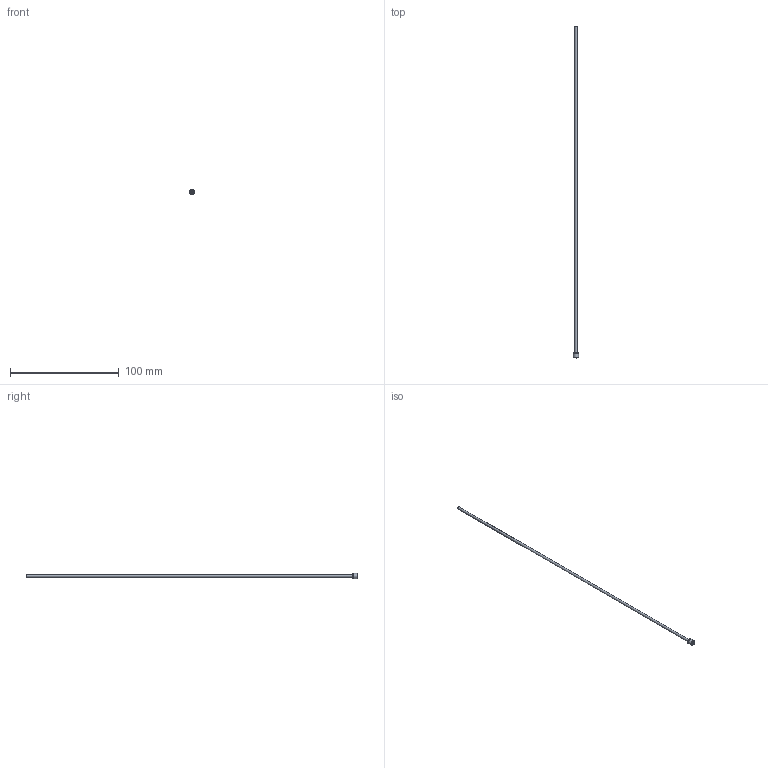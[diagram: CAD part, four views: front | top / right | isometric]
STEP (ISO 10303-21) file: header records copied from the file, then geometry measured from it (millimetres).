
FILE_DESCRIPTION(/* description */ (''),/* implementation_level */ '2;1');
FILE_NAME(/* name */ 'C:/Users/drich/Desktop/JHF090T-12 v1.step',/* time_stamp */ '2020-01-02T19:58:44-06:00',/* author */ (''),/* organization */ (''),/* preprocessor_version */ 'ST-DEVELOPER v18',/* originating_system */ 'Autodesk Translation Framework v8.12.0.6',/* authorisation */ '');
FILE_SCHEMA (('AUTOMOTIVE_DESIGN { 1 0 10303 214 3 1 1 }'));
Length unit declared in the file: inch
Products named in the file (1): JHF090T-12
Bounding box: 4.8 x 304.8 x 4.8 mm (x, y, z)
Volume: 427.6 mm3; surface area: 4101.4 mm2
Topology: 1 solids, 1 shells, 10 faces, 25 edges, 19 vertices
Faces by surface type: cylinder 4, plane 4, cone 1, torus 1
Full cylindrical faces by diameter (mm): 1.93 x1, 2.286 x1, 4.75 x1, 4.801 x1
Entity records: 364 total; most frequent: DIRECTION 67, CARTESIAN_POINT 55, ORIENTED_EDGE 50, AXIS2_PLACEMENT_3D 31, EDGE_CURVE 25, CIRCLE 20, VERTEX_POINT 19, EDGE_LOOP 14
